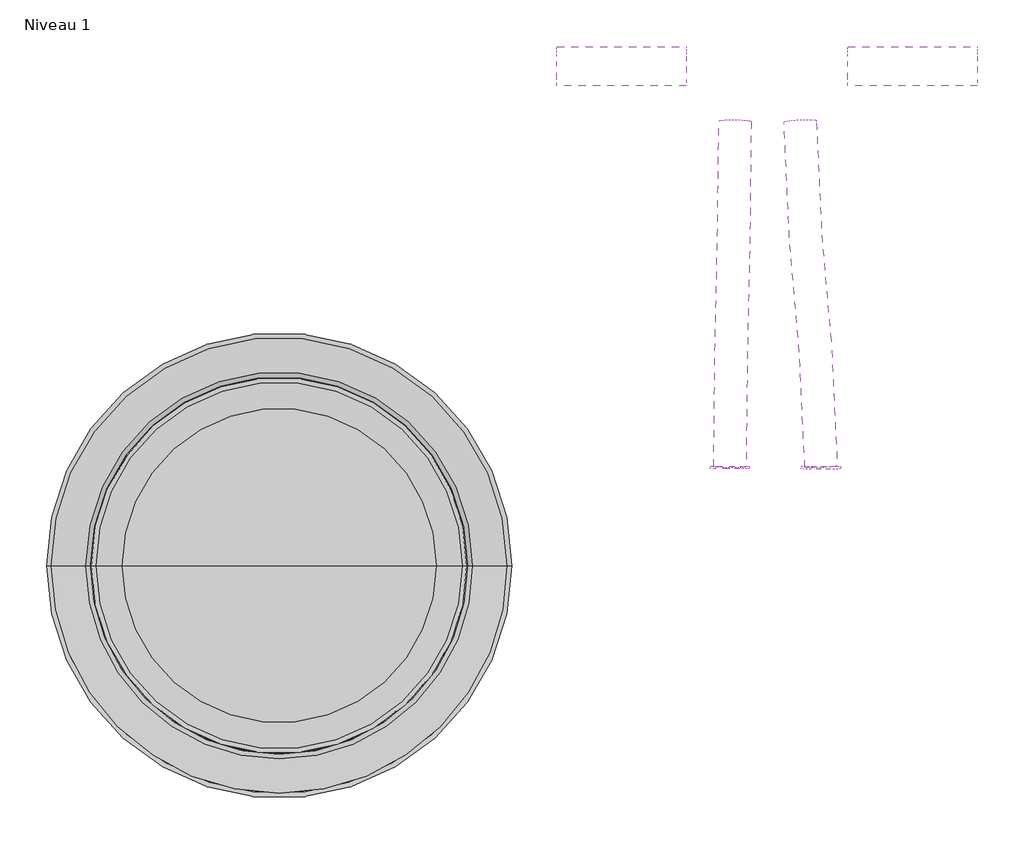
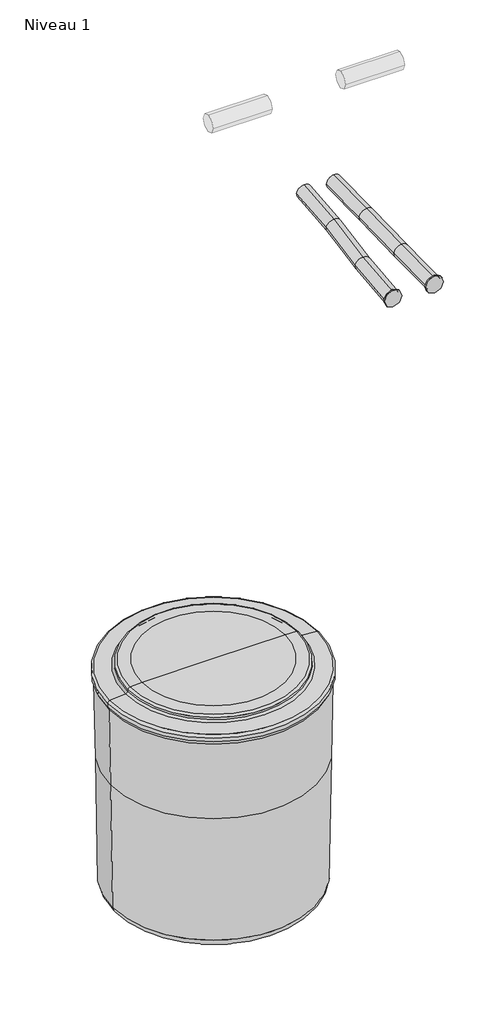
# One storey, incomplete: 6 pipe segments, 1 proxy.
"""IFC4 building model written with IfcOpenShell, lengths in millimetres."""

from ifc_helpers import new_model, si_unit, point, frame, frame_2d, origin, place, context, project, spatial, circle_curve, ellipse_curve, trimmed, segment, composite_curve, outline, extrude, transform, mapped, element, save
from ifc_brep_helpers import plane_surface, cylinder_surface, advanced_brep
from components import proxy_800_x_720_mm_2ee91da9

model = new_model("IFC4")

# Units and contexts
model_context = context("Model", 3, world=origin())
ifc_project = project(units=[si_unit("LENGTHUNIT", "METRE", prefix="MILLI")], contexts=[model_context])

# Site, building, storey
site = spatial("IfcSite", under=ifc_project)
building = spatial("IfcBuilding", under=site)
storey = spatial("IfcBuildingStorey", under=building, Name="Niveau 1", Elevation=0.0)

# Proxy
placement = place(None, origin())
proxy_800_x_720_mm_shape = proxy_800_x_720_mm_2ee91da9(model_context)
element("IfcBuildingElementProxy", 1, Name="BWT_Bac à sel type 1 : 800 x 720 mm", ObjectType="BWT_Bac à sel type 1 : 800 x 720 mm", at=placement, inside=storey, context=model_context, shape_type="MappedRepresentation", body=[
    mapped(proxy_800_x_720_mm_shape, transform((4117.7131695, -2903.9395648, 0.0), x_axis=(1.0, 0.0, 0.0), y_axis=(0.0, 1.0, 0.0), z_axis=(0.0, 0.0, 1.0))),
])

# Pipe segments
element("IfcPipeSegment", 2, ObjectType="Souple - Circulaire", at=placement, inside=storey, context=model_context, shape_type="AdvancedBrep", body=[
    advanced_brep(
    [(4788.6628375, -2750.9024314, 1756.2), (4813.6845845, -2749.1526808, 1731.2831272), (4838.6595395, -2751.4767021, 1756.2), (4813.6377924, -2753.2264527, 1781.1168728), (4790.7083441, -2572.8181473, 1770.7598222), (4815.7386552, -2570.3227973, 1745.9039082), (4840.7022354, -2573.6371249, 1770.7398154), (4815.6719243, -2576.1324749, 1795.5957295), (4796.5472282, -2217.6840085, 1812.3207297), (4821.5221831, -2220.0080298, 1837.2376025), (4846.5439302, -2218.2582792, 1812.3207297), (4821.5689752, -2215.9342578, 1787.403857), (4794.5045322, -2395.5235857, 1797.7809143), (4819.5348433, -2393.0282357, 1772.9250003), (4844.4984235, -2396.3425632, 1797.7609075), (4819.4681124, -2398.8379132, 1822.6168216)],
    [
        (0, 1, circle_curve(frame((4813.6611885, -2751.1895667, 1756.2), z_axis=(-0.011447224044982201, -0.9966091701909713, -0.0814808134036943), x_axis=(-0.9999340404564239, 0.011485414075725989, 0.0)), 25.0)),
        (1, 2, circle_curve(frame((4813.6611885, -2751.1895667, 1756.2), z_axis=(-0.011447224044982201, -0.9966091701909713, -0.0814808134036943), x_axis=(-0.9999340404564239, 0.011485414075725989, 0.0)), 25.0)),
        (2, 3, circle_curve(frame((4813.6611885, -2751.1895667, 1756.2), z_axis=(-0.011447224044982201, -0.9966091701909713, -0.0814808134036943), x_axis=(-0.9999340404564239, 0.011485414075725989, 0.0)), 25.0)),
        (3, 0, circle_curve(frame((4813.6611885, -2751.1895667, 1756.2), z_axis=(-0.011447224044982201, -0.9966091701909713, -0.0814808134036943), x_axis=(-0.9999340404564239, 0.011485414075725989, 0.0)), 25.0)),
        (0, 4),
        (4, 5, ellipse_curve(frame((4815.7052898, -2573.2276361, 1770.7498188), z_axis=(-0.016314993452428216, -0.9931000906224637, -0.11612937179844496), x_axis=(0.1381636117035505, -0.11726981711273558, 0.9834422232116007)), 25.0154662, 25.0)),
        (5, 1),
        (5, 6, ellipse_curve(frame((4815.7052898, -2573.2276361, 1770.7498188), z_axis=(-0.016314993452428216, -0.9931000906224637, -0.11612937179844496), x_axis=(0.1381636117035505, -0.11726981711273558, 0.9834422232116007)), 25.0154662, 25.0)),
        (6, 2),
        (6, 7, ellipse_curve(frame((4815.7052898, -2573.2276361, 1770.7498188), z_axis=(-0.016314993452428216, -0.9931000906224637, -0.11612937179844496), x_axis=(0.1381636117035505, -0.11726981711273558, 0.9834422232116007)), 25.0154662, 25.0)),
        (7, 3),
        (7, 4, ellipse_curve(frame((4815.7052898, -2573.2276361, 1770.7498188), z_axis=(-0.016314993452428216, -0.9931000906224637, -0.11612937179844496), x_axis=(0.1381636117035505, -0.11726981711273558, 0.9834422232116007)), 25.0154662, 25.0)),
        (8, 9, circle_curve(frame((4821.5455792, -2217.9711438, 1812.3207297), z_axis=(0.011447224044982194, 0.9966091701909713, 0.08148081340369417), x_axis=(-0.9999340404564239, 0.011485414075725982, 0.0)), 25.0)),
        (9, 10, circle_curve(frame((4821.5455792, -2217.9711438, 1812.3207297), z_axis=(0.011447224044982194, 0.9966091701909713, 0.08148081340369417), x_axis=(-0.9999340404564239, 0.011485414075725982, 0.0)), 25.0)),
        (10, 11, circle_curve(frame((4821.5455792, -2217.9711438, 1812.3207297), z_axis=(0.011447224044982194, 0.9966091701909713, 0.08148081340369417), x_axis=(-0.9999340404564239, 0.011485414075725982, 0.0)), 25.0)),
        (11, 8, circle_curve(frame((4821.5455792, -2217.9711438, 1812.3207297), z_axis=(0.011447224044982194, 0.9966091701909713, 0.08148081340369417), x_axis=(-0.9999340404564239, 0.011485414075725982, 0.0)), 25.0)),
        (4, 12),
        (12, 13, ellipse_curve(frame((4819.5014779, -2395.9330745, 1797.7709109), z_axis=(-0.016314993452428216, -0.9931000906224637, -0.11612937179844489), x_axis=(-0.13816361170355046, 0.11726981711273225, -0.9834422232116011)), 25.0154662, 25.0)),
        (13, 5),
        (13, 14, ellipse_curve(frame((4819.5014779, -2395.9330745, 1797.7709109), z_axis=(-0.016314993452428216, -0.9931000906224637, -0.11612937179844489), x_axis=(-0.13816361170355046, 0.11726981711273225, -0.9834422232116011)), 25.0154662, 25.0)),
        (14, 6),
        (14, 15, ellipse_curve(frame((4819.5014779, -2395.9330745, 1797.7709109), z_axis=(-0.016314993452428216, -0.9931000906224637, -0.11612937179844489), x_axis=(-0.13816361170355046, 0.11726981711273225, -0.9834422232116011)), 25.0154662, 25.0)),
        (15, 7),
        (15, 12, ellipse_curve(frame((4819.5014779, -2395.9330745, 1797.7709109), z_axis=(-0.016314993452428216, -0.9931000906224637, -0.11612937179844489), x_axis=(-0.13816361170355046, 0.11726981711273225, -0.9834422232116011)), 25.0154662, 25.0)),
        (12, 8),
        (11, 13),
        (10, 14),
        (9, 15),
    ],
    [
        plane_surface(frame((4813.6611885, -2753.2267205, 1781.1168618), z_axis=(-0.011447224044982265, -0.9966091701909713, -0.08148081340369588), x_axis=(0.999934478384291, -0.011409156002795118, -0.0009327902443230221))),
        cylinder_surface(frame((4813.6611885, -2751.1895667, 1756.2), z_axis=(-0.011447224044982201, -0.9966091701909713, -0.0814808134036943), x_axis=(-0.9999340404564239, 0.011485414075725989, 0.0)), 25.0),
        plane_surface(frame((4821.5455792, -2220.0082976, 1837.2375916), z_axis=(0.011447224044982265, 0.9966091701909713, 0.08148081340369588), x_axis=(0.999934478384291, -0.011409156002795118, -0.0009327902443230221))),
        cylinder_surface(frame((4815.7052898, -2573.2276361, 1770.7498188), z_axis=(-0.021162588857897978, -0.9883630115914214, -0.15063433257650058), x_axis=(-0.9997739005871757, 0.021233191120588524, 0.0011398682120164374)), 25.0),
        cylinder_surface(frame((4819.5014779, -2395.9330745, 1797.7709109), z_axis=(-0.011447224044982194, -0.9966091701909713, -0.08148081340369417), x_axis=(-0.9999340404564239, 0.011485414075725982, 0.0)), 25.0),
    ],
    [
        (0, [[1, 2, 3, 4]]),
        (1, [[-1, 5, 6, 7]]),
        (1, [[-2, -7, 8, 9]]),
        (1, [[-3, -9, 10, 11]]),
        (1, [[-4, -11, 12, -5]]),
        (2, [[13, 14, 15, 16]]),
        (3, [[-6, 17, 18, 19]]),
        (3, [[-8, -19, 20, 21]]),
        (3, [[-10, -21, 22, 23]]),
        (3, [[-12, -23, 24, -17]]),
        (4, [[-18, 25, -16, 26]]),
        (4, [[-20, -26, -15, 27]]),
        (4, [[-22, -27, -14, 28]]),
        (4, [[-24, -28, -13, -25]]),
    ],
),
])
element("IfcPipeSegment", 3, ObjectType="Souple - Circulaire", at=placement, inside=storey, context=model_context, shape_type="AdvancedBrep", body=[
    advanced_brep(
    [(4929.4136145, -2752.3640568, 1757.1), (4954.2960151, -2749.2760486, 1732.1735011), (4979.358407, -2750.0150767, 1757.1), (4954.4760064, -2753.1030849, 1782.0264989), (4921.0645528, -2574.8435395, 1770.7577589), (4945.8804, -2570.3404522, 1745.9401309), (4970.9623355, -2571.4950225, 1770.8346595), (4946.1464883, -2575.9981099, 1795.6522876), (4897.1194381, -2219.1458228, 1812.323326), (4922.1904932, -2220.0136458, 1837.2369584), (4947.0642125, -2216.7964648, 1812.3181335), (4921.9931574, -2215.9286418, 1787.4045011), (4905.5154998, -2397.6693065, 1797.6556571), (4930.3257345, -2393.1022677, 1772.8477379), (4955.413284, -2394.3208063, 1797.7325551), (4930.6030493, -2398.8878452, 1822.5404744)],
    [
        (0, 1, circle_curve(frame((4954.3860107, -2751.1895667, 1757.1), z_axis=(0.04684147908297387, -0.9959590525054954, -0.07662533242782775), x_axis=(-0.9988958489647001, -0.04697960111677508, 0.0)), 25.0)),
        (1, 2, circle_curve(frame((4954.3860107, -2751.1895667, 1757.1), z_axis=(0.04684147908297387, -0.9959590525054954, -0.07662533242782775), x_axis=(-0.9988958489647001, -0.04697960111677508, 0.0)), 25.0)),
        (2, 3, circle_curve(frame((4954.3860107, -2751.1895667, 1757.1), z_axis=(0.04684147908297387, -0.9959590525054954, -0.07662533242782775), x_axis=(-0.9988958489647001, -0.04697960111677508, 0.0)), 25.0)),
        (3, 0, circle_curve(frame((4954.3860107, -2751.1895667, 1757.1), z_axis=(0.04684147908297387, -0.9959590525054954, -0.07662533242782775), x_axis=(-0.9988958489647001, -0.04697960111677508, 0.0)), 25.0)),
        (0, 4),
        (4, 5, ellipse_curve(frame((4946.0134442, -2573.169281, 1770.7962092), z_axis=(0.06670035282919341, -0.9913332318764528, -0.1131790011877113), x_axis=(-0.47316217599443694, -0.13129239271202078, 0.8711371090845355)), 25.0219185, 25.0)),
        (5, 1),
        (5, 6, ellipse_curve(frame((4946.0134442, -2573.169281, 1770.7962092), z_axis=(0.06670035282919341, -0.9913332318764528, -0.1131790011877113), x_axis=(-0.47316217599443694, -0.13129239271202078, 0.8711371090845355)), 25.0219185, 25.0)),
        (6, 2),
        (6, 7, ellipse_curve(frame((4946.0134442, -2573.169281, 1770.7962092), z_axis=(0.06670035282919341, -0.9913332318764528, -0.1131790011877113), x_axis=(-0.47316217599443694, -0.13129239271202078, 0.8711371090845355)), 25.0219185, 25.0)),
        (7, 3),
        (7, 4, ellipse_curve(frame((4946.0134442, -2573.169281, 1770.7962092), z_axis=(0.06670035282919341, -0.9913332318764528, -0.1131790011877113), x_axis=(-0.47316217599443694, -0.13129239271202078, 0.8711371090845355)), 25.0219185, 25.0)),
        (8, 9, circle_curve(frame((4922.0918253, -2217.9711438, 1812.3207297), z_axis=(-0.04682122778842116, 0.9955487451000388, 0.08179528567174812), x_axis=(-0.998895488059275, -0.04698715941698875, 0.00010384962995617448)), 25.0)),
        (9, 10, circle_curve(frame((4922.0918253, -2217.9711438, 1812.3207297), z_axis=(-0.04682122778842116, 0.9955487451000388, 0.08179528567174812), x_axis=(-0.998895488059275, -0.04698715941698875, 0.00010384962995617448)), 25.0)),
        (10, 11, circle_curve(frame((4922.0918253, -2217.9711438, 1812.3207297), z_axis=(-0.04682122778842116, 0.9955487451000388, 0.08179528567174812), x_axis=(-0.998895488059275, -0.04698715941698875, 0.00010384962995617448)), 25.0)),
        (11, 8, circle_curve(frame((4922.0918253, -2217.9711438, 1812.3207297), z_axis=(-0.04682122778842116, 0.9955487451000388, 0.08179528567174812), x_axis=(-0.998895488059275, -0.04698715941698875, 0.00010384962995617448)), 25.0)),
        (4, 12),
        (12, 13, ellipse_curve(frame((4930.4643919, -2395.9950564, 1797.6941061), z_axis=(0.0666840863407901, -0.9910367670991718, -0.11575559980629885), x_axis=(0.5003596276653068, 0.1335865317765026, -0.8554501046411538)), 25.0196178, 25.0)),
        (13, 5),
        (13, 14, ellipse_curve(frame((4930.4643919, -2395.9950564, 1797.6941061), z_axis=(0.0666840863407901, -0.9910367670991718, -0.11575559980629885), x_axis=(0.5003596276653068, 0.1335865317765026, -0.8554501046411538)), 25.0196178, 25.0)),
        (14, 6),
        (14, 15, ellipse_curve(frame((4930.4643919, -2395.9950564, 1797.6941061), z_axis=(0.0666840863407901, -0.9910367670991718, -0.11575559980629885), x_axis=(0.5003596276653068, 0.1335865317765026, -0.8554501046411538)), 25.0196178, 25.0)),
        (15, 7),
        (15, 12, ellipse_curve(frame((4930.4643919, -2395.9950564, 1797.6941061), z_axis=(0.0666840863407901, -0.9910367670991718, -0.11575559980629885), x_axis=(0.5003596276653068, 0.1335865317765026, -0.8554501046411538)), 25.0196178, 25.0)),
        (12, 8),
        (11, 13),
        (10, 14),
        (9, 15),
    ],
    [
        plane_surface(frame((4954.3860107, -2753.1073051, 1782.0263371), z_axis=(0.046841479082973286, -0.9959590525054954, -0.07662533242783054), x_axis=(0.998902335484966, 0.046703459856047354, 0.0035931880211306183))),
        cylinder_surface(frame((4954.3860107, -2751.1895667, 1757.1), z_axis=(0.046841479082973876, -0.9959590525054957, -0.07662533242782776), x_axis=(-0.9988958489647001, -0.04697960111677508, 0.0)), 25.0),
        plane_surface(frame((4922.0918253, -2220.0182711, 1837.2367742), z_axis=(-0.04682122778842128, 0.9955487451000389, 0.08179528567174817), x_axis=(0.9989032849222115, 0.04666399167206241, 0.003833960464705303))),
        cylinder_surface(frame((4946.0134442, -2573.169281, 1770.7962092), z_axis=(0.08644237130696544, -0.9849706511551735, -0.14953438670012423), x_axis=(-0.9962205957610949, -0.08674052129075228, -0.004539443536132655)), 25.0),
        cylinder_surface(frame((4930.4643919, -2395.9950564, 1797.6941061), z_axis=(0.04682122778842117, -0.995548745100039, -0.08179528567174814), x_axis=(-0.998895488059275, -0.04698715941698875, 0.00010384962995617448)), 25.0),
    ],
    [
        (0, [[1, 2, 3, 4]]),
        (1, [[-1, 5, 6, 7]]),
        (1, [[-2, -7, 8, 9]]),
        (1, [[-3, -9, 10, 11]]),
        (1, [[-4, -11, 12, -5]]),
        (2, [[13, 14, 15, 16]]),
        (3, [[-6, 17, 18, 19]]),
        (3, [[-8, -19, 20, 21]]),
        (3, [[-10, -21, 22, 23]]),
        (3, [[-12, -23, 24, -17]]),
        (4, [[-18, 25, -16, 26]]),
        (4, [[-20, -26, -15, 27]]),
        (4, [[-22, -27, -14, 28]]),
        (4, [[-24, -28, -13, -25]]),
    ],
),
])
element("IfcPipeSegment", 4, ObjectType="Standard", at=placement, inside=storey, context=model_context, shape_type="SweptSolid", body=[
    extrude(outline(composite_curve([segment(trimmed(circle_curve(frame_2d((0.0, -30.1625)), 30.1625), [point((30.1625, -30.1625))], [point((0.0, -60.3249999))], False, "CARTESIAN"), True, "CONTINUOUS"), segment(trimmed(circle_curve(frame_2d((0.0, -30.1625)), 30.1625), [point((0.0, -60.3249999))], [point((-30.1625, -30.1625))], False, "CARTESIAN"), True, "CONTINUOUS"), segment(trimmed(circle_curve(frame_2d((0.0, -30.1625)), 30.1625), [point((-30.1625, -30.1625))], [point((0.0, 0.0))], False, "CARTESIAN"), True, "CONTINUOUS"), segment(trimmed(circle_curve(frame_2d((0.0, -30.1625)), 30.1625), [point((0.0, 0.0))], [point((30.1625, -30.1625))], False, "CARTESIAN"), True, "CONTINUOUS")], self_intersect=False)), frame((4954.3860107, -2750.9544151, 1787.2615833), z_axis=(0.0, -0.9999696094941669, 0.007796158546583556), x_axis=(1.0, 0.0, 0.0)), (0.0, 0.0, 1.0), 3.7501109),
])
element("IfcPipeSegment", 5, ObjectType="Standard", at=placement, inside=storey, context=model_context, shape_type="SweptSolid", body=[
    extrude(outline(composite_curve([segment(trimmed(circle_curve(frame_2d((1756.2, 4813.6611885)), 30.1625), [point((1756.2, 4843.8236885))], [point((1786.3625, 4813.6611885))], False, "CARTESIAN"), True, "CONTINUOUS"), segment(trimmed(circle_curve(frame_2d((1756.2, 4813.6611885)), 30.1625), [point((1786.3625, 4813.6611885))], [point((1756.2, 4783.4986885))], False, "CARTESIAN"), True, "CONTINUOUS"), segment(trimmed(circle_curve(frame_2d((1756.2, 4813.6611885)), 30.1625), [point((1756.2, 4783.4986885))], [point((1726.0375, 4813.6611885))], False, "CARTESIAN"), True, "CONTINUOUS"), segment(trimmed(circle_curve(frame_2d((1756.2, 4813.6611885)), 30.1625), [point((1726.0375, 4813.6611885))], [point((1756.2, 4843.8236885))], False, "CARTESIAN"), True, "CONTINUOUS")], self_intersect=False)), frame((0.0, -2754.9395637, 0.0), z_axis=(0.0, 1.0, 0.0), x_axis=(0.0, 0.0, 1.0)), (0.0, 0.0, 1.0), 3.7499969),
])
element("IfcPipeSegment", 6, ObjectType="Standard", at=placement, inside=storey, context=model_context, shape_type="SweptSolid", body=[
    extrude(outline(composite_curve([segment(trimmed(circle_curve(frame_2d((-2133.0769881, 2100.0)), 30.1625), [point((-2163.2394881, 2100.0))], [point((-2133.0769881, 2130.1625))], False, "CARTESIAN"), True, "CONTINUOUS"), segment(trimmed(circle_curve(frame_2d((-2133.0769881, 2100.0)), 30.1625), [point((-2133.0769881, 2130.1625))], [point((-2102.9144881, 2100.0))], False, "CARTESIAN"), True, "CONTINUOUS"), segment(trimmed(circle_curve(frame_2d((-2133.0769881, 2100.0)), 30.1625), [point((-2102.9144881, 2100.0))], [point((-2133.0769881, 2069.8375))], False, "CARTESIAN"), True, "CONTINUOUS"), segment(trimmed(circle_curve(frame_2d((-2133.0769881, 2100.0)), 30.1625), [point((-2133.0769881, 2069.8375))], [point((-2163.2394881, 2100.0))], False, "CARTESIAN"), True, "CONTINUOUS")], self_intersect=False)), frame((4995.9083938, 0.0, 0.0), z_axis=(1.0, 0.0, 0.0), x_axis=(0.0, 1.0, 0.0)), (0.0, 0.0, 1.0), 200.0),
])
element("IfcPipeSegment", 7, ObjectType="Standard", at=placement, inside=storey, context=model_context, shape_type="SweptSolid", body=[
    extrude(outline(composite_curve([segment(trimmed(circle_curve(frame_2d((-2133.0769881, 2100.0)), 30.1625), [point((-2102.9144881, 2100.0))], [point((-2133.0769881, 2069.8375))], False, "CARTESIAN"), True, "CONTINUOUS"), segment(trimmed(circle_curve(frame_2d((-2133.0769881, 2100.0)), 30.1625), [point((-2133.0769881, 2069.8375))], [point((-2163.2394881, 2100.0))], False, "CARTESIAN"), True, "CONTINUOUS"), segment(trimmed(circle_curve(frame_2d((-2133.0769881, 2100.0)), 30.1625), [point((-2163.2394881, 2100.0))], [point((-2133.0769881, 2130.1625))], False, "CARTESIAN"), True, "CONTINUOUS"), segment(trimmed(circle_curve(frame_2d((-2133.0769881, 2100.0)), 30.1625), [point((-2133.0769881, 2130.1625))], [point((-2102.9144881, 2100.0))], False, "CARTESIAN"), True, "CONTINUOUS")], self_intersect=False)), frame((4546.5455792, 0.0, 0.0), z_axis=(1.0, 0.0, 0.0), x_axis=(0.0, 1.0, 0.0)), (0.0, 0.0, 1.0), 200.0),
])

save(model, "model.ifc")
